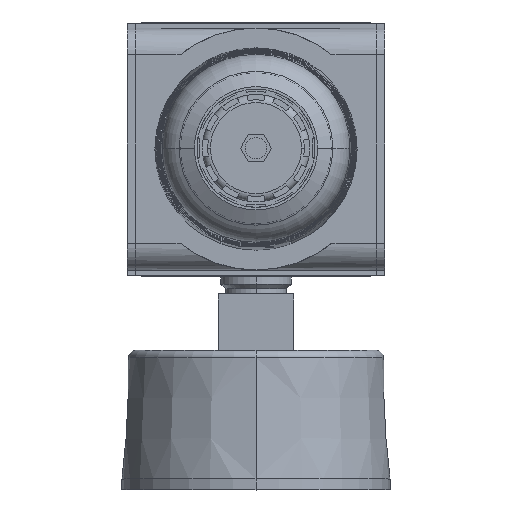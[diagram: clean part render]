
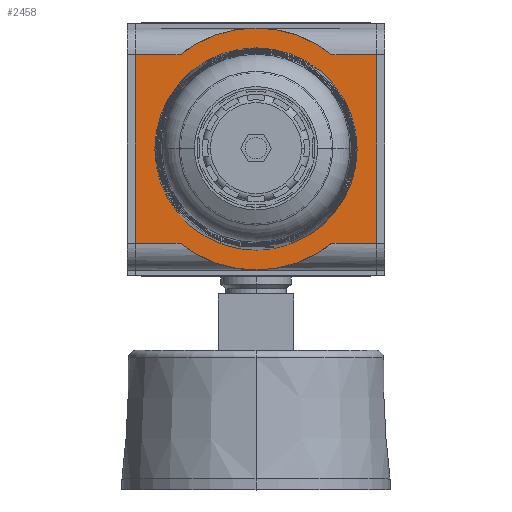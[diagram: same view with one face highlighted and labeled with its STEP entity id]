
A CAD part, top view. The second image highlights one B-rep face of the part: STEP entity #2458.
In plain terms, the highlighted planar face has unit normal (0, 0, 1).
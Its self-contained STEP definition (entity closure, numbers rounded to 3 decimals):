
#682=CARTESIAN_POINT('',(-14.163,17.56,26.));
#689=CARTESIAN_POINT('',(14.163,17.56,26.));
#714=CARTESIAN_POINT('',(0.,0.,26.));
#715=DIRECTION('',(0.,0.,1.));
#716=DIRECTION('',(0.628,0.778,0.));
#717=AXIS2_PLACEMENT_3D('',#714,#715,#716);
#719=CARTESIAN_POINT('',(0.,0.,26.));
#720=DIRECTION('',(0.,0.,1.));
#721=DIRECTION('',(-0.628,-0.778,0.));
#722=AXIS2_PLACEMENT_3D('',#719,#720,#721);
#724=DIRECTION('',(0.,-1.,0.));
#725=VECTOR('',#724,35.12);
#726=CARTESIAN_POINT('',(22.5,17.56,26.));
#727=LINE('',#726,#725);
#728=DIRECTION('',(0.,-1.,0.));
#729=VECTOR('',#728,35.12);
#730=CARTESIAN_POINT('',(-22.5,17.56,26.));
#731=LINE('',#730,#729);
#732=DIRECTION('',(1.,0.,0.));
#733=VECTOR('',#732,8.337);
#734=CARTESIAN_POINT('',(-22.5,17.56,26.));
#735=LINE('',#734,#733);
#736=DIRECTION('',(1.,0.,0.));
#737=VECTOR('',#736,8.337);
#738=CARTESIAN_POINT('',(14.163,17.56,26.));
#739=LINE('',#738,#737);
#745=DIRECTION('',(1.,0.,0.));
#746=VECTOR('',#745,8.337);
#747=CARTESIAN_POINT('',(-22.5,-17.56,26.));
#748=LINE('',#747,#746);
#749=CARTESIAN_POINT('',(-14.163,-17.56,26.));
#794=CARTESIAN_POINT('',(14.163,-17.56,26.));
#796=DIRECTION('',(1.,0.,0.));
#797=VECTOR('',#796,8.337);
#798=CARTESIAN_POINT('',(14.163,-17.56,26.));
#799=LINE('',#798,#797);
#1277=VERTEX_POINT('',#682);
#1278=VERTEX_POINT('',#689);
#1279=VERTEX_POINT('',#749);
#1281=VERTEX_POINT('',#794);
#1394=CARTESIAN_POINT('',(-22.5,17.56,26.));
#1395=VERTEX_POINT('',#1394);
#1396=CARTESIAN_POINT('',(-22.5,-17.56,26.));
#1397=VERTEX_POINT('',#1396);
#1458=CARTESIAN_POINT('',(22.5,17.56,26.));
#1459=VERTEX_POINT('',#1458);
#1460=CARTESIAN_POINT('',(22.5,-17.56,26.));
#1461=VERTEX_POINT('',#1460);
#2441=CARTESIAN_POINT('',(-24.,17.56,26.));
#2442=DIRECTION('',(0.,0.,1.));
#2443=DIRECTION('',(0.,-1.,0.));
#2444=AXIS2_PLACEMENT_3D('',#2441,#2442,#2443);
#2445=PLANE('',#2444);
#2446=ORIENTED_EDGE('',*,*,#1572,.T.);
#2448=ORIENTED_EDGE('',*,*,#2447,.F.);
#2449=ORIENTED_EDGE('',*,*,#2432,.F.);
#2451=ORIENTED_EDGE('',*,*,#2450,.F.);
#2452=ORIENTED_EDGE('',*,*,#2203,.F.);
#2453=ORIENTED_EDGE('',*,*,#2396,.T.);
#2454=ORIENTED_EDGE('',*,*,#2422,.F.);
#2455=ORIENTED_EDGE('',*,*,#2407,.T.);
#2456=EDGE_LOOP('',(#2446,#2448,#2449,#2451,#2452,#2453,#2454,#2455));
#2457=FACE_OUTER_BOUND('',#2456,.F.);
#2458=ADVANCED_FACE('',(#2457),#2445,.T.);
#718=CIRCLE('',#717,22.56);
#723=CIRCLE('',#722,22.56);
#1572=EDGE_CURVE('',#1459,#1461,#727,.T.);
#2203=EDGE_CURVE('',#1395,#1397,#731,.T.);
#2396=EDGE_CURVE('',#1395,#1277,#735,.T.);
#2407=EDGE_CURVE('',#1278,#1459,#739,.T.);
#2422=EDGE_CURVE('',#1278,#1277,#718,.T.);
#2432=EDGE_CURVE('',#1279,#1281,#723,.T.);
#2447=EDGE_CURVE('',#1281,#1461,#799,.T.);
#2450=EDGE_CURVE('',#1397,#1279,#748,.T.);
